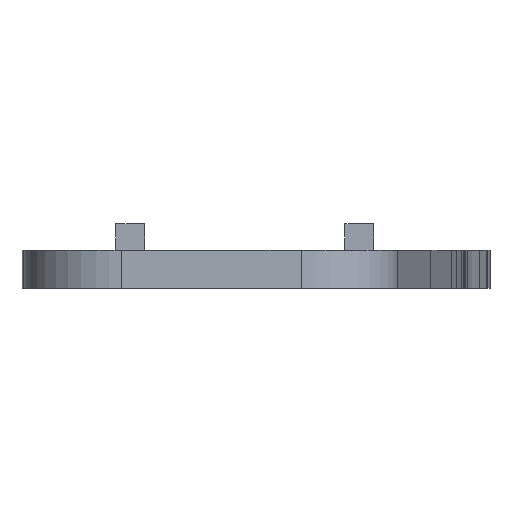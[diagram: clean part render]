
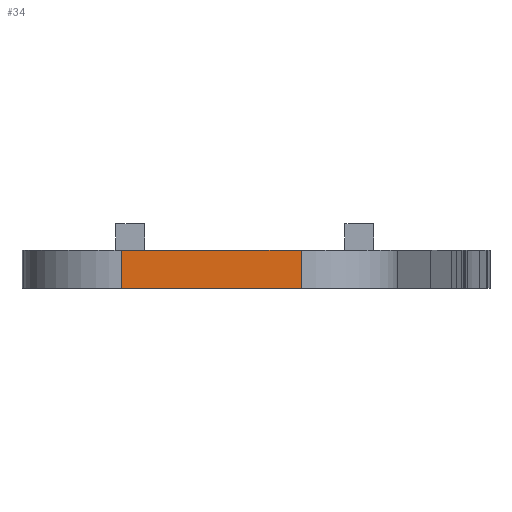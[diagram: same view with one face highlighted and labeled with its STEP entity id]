
A CAD part, front view. The second image highlights one B-rep face of the part: STEP entity #34.
In plain terms, the highlighted planar face has unit normal (0, -1, 0).
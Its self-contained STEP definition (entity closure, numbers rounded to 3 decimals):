
#34=ADVANCED_FACE('',(#80),#792,.T.);
#80=FACE_OUTER_BOUND('',#130,.T.);
#130=EDGE_LOOP('',(#258,#259,#260,#261));
#258=ORIENTED_EDGE('',*,*,#433,.F.);
#259=ORIENTED_EDGE('',*,*,#461,.F.);
#260=ORIENTED_EDGE('',*,*,#462,.T.);
#261=ORIENTED_EDGE('',*,*,#463,.T.);
#433=EDGE_CURVE('',#681,#682,#589,.T.);
#461=EDGE_CURVE('',#701,#681,#610,.T.);
#462=EDGE_CURVE('',#701,#702,#611,.T.);
#463=EDGE_CURVE('',#702,#682,#612,.T.);
#589=B_SPLINE_CURVE_WITH_KNOTS('',1,(#1480,#1481),.UNSPECIFIED.,.F.,.F.,
(2,2),(-10.763,-1.443),.UNSPECIFIED.);
#610=B_SPLINE_CURVE_WITH_KNOTS('',1,(#1636,#1637),.UNSPECIFIED.,.F.,.F.,
(2,2),(-2.,0.),.UNSPECIFIED.);
#611=B_SPLINE_CURVE_WITH_KNOTS('',1,(#1638,#1639),.UNSPECIFIED.,.F.,.F.,
(2,2),(-10.763,-1.443),.UNSPECIFIED.);
#612=B_SPLINE_CURVE_WITH_KNOTS('',1,(#1640,#1641),.UNSPECIFIED.,.F.,.F.,
(2,2),(-2.,0.),.UNSPECIFIED.);
#681=VERTEX_POINT('',#1319);
#682=VERTEX_POINT('',#1320);
#701=VERTEX_POINT('',#1339);
#702=VERTEX_POINT('',#1340);
#792=PLANE('',#892);
#892=AXIS2_PLACEMENT_3D('',#1114,#917,$);
#917=DIRECTION('',(0.,-1.,0.));
#1114=CARTESIAN_POINT('',(-57.783,-48.942,97.75));
#1319=CARTESIAN_POINT('',(-67.103,-48.942,97.75));
#1320=CARTESIAN_POINT('',(-57.783,-48.942,97.75));
#1339=CARTESIAN_POINT('',(-67.103,-48.942,95.775));
#1340=CARTESIAN_POINT('',(-57.783,-48.942,95.775));
#1480=CARTESIAN_POINT('',(-67.103,-48.942,97.75));
#1481=CARTESIAN_POINT('',(-57.783,-48.942,97.75));
#1636=CARTESIAN_POINT('',(-67.103,-48.942,95.775));
#1637=CARTESIAN_POINT('',(-67.103,-48.942,97.75));
#1638=CARTESIAN_POINT('',(-67.103,-48.942,95.775));
#1639=CARTESIAN_POINT('',(-57.783,-48.942,95.775));
#1640=CARTESIAN_POINT('',(-57.783,-48.942,95.775));
#1641=CARTESIAN_POINT('',(-57.783,-48.942,97.75));
